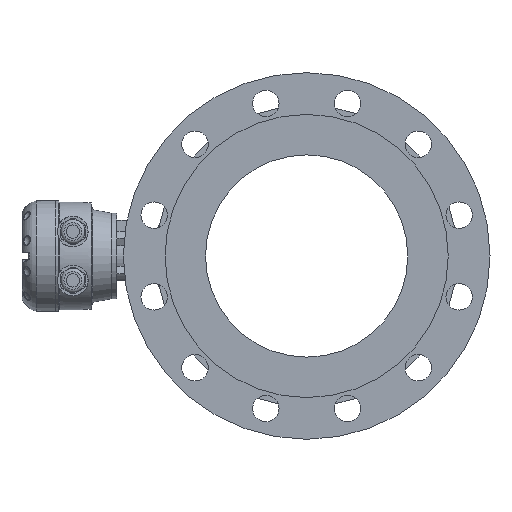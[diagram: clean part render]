
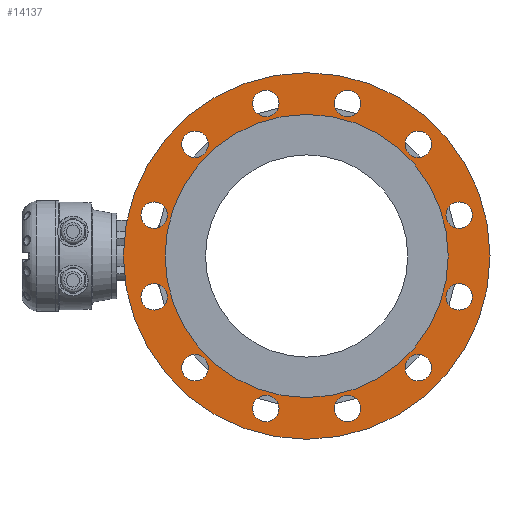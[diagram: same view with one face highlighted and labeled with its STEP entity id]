
A CAD part, left-side view. The second image highlights one B-rep face of the part: STEP entity #14137.
In plain terms, the highlighted planar face has unit normal (-1, 0, 0).
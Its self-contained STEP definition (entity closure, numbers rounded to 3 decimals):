
#54 = CIRCLE ( 'NONE', #2707, 13. ) ;
#434 = FACE_BOUND ( 'NONE', #4462, .T. ) ;
#435 = FACE_BOUND ( 'NONE', #4409, .T. ) ;
#439 = FACE_BOUND ( 'NONE', #4459, .T. ) ;
#440 = FACE_BOUND ( 'NONE', #4480, .T. ) ;
#441 = FACE_BOUND ( 'NONE', #4451, .T. ) ;
#442 = FACE_BOUND ( 'NONE', #4464, .T. ) ;
#443 = FACE_BOUND ( 'NONE', #4454, .T. ) ;
#444 = FACE_BOUND ( 'NONE', #4466, .T. ) ;
#445 = FACE_BOUND ( 'NONE', #4457, .T. ) ;
#446 = FACE_BOUND ( 'NONE', #4476, .T. ) ;
#447 = FACE_BOUND ( 'NONE', #4481, .T. ) ;
#448 = FACE_BOUND ( 'NONE', #4485, .T. ) ;
#449 = FACE_OUTER_BOUND ( 'NONE', #4490, .T. ) ;
#450 = FACE_BOUND ( 'NONE', #4493, .T. ) ;
#694 = CARTESIAN_POINT ( 'NONE',  ( -164.805, -220.134, -160.261 ) ) ;
#706 = DIRECTION ( 'NONE',  ( -1., 0., 0. ) ) ;
#708 = DIRECTION ( 'NONE',  ( 0., 0., 1. ) ) ;
#1103 = CARTESIAN_POINT ( 'NONE',  ( -164.805, -30.298, 29.574 ) ) ;
#1117 = DIRECTION ( 'NONE',  ( -1., 0., 0. ) ) ;
#1118 = DIRECTION ( 'NONE',  ( 0., 0., 1. ) ) ;
#1144 = CARTESIAN_POINT ( 'NONE',  ( -164.805, -70.415, 99.059 ) ) ;
#1150 = DIRECTION ( 'NONE',  ( -1., 0., 0. ) ) ;
#1151 = DIRECTION ( 'NONE',  ( 0., 0., 1. ) ) ;
#2079 = CARTESIAN_POINT ( 'NONE',  ( -164.805, -289.618, -107.144 ) ) ;
#2086 = VERTEX_POINT ( 'NONE', #2087 ) ;
#2087 = CARTESIAN_POINT ( 'NONE',  ( -164.805, -329.735, -37.66 ) ) ;
#2094 = VERTEX_POINT ( 'NONE', #2095 ) ;
#2095 = CARTESIAN_POINT ( 'NONE',  ( -164.805, -139.9, -147.261 ) ) ;
#2112 = VERTEX_POINT ( 'NONE', #2113 ) ;
#2113 = CARTESIAN_POINT ( 'NONE',  ( -164.805, -180.017, -190.543 ) ) ;
#2146 = VERTEX_POINT ( 'NONE', #2147 ) ;
#2147 = CARTESIAN_POINT ( 'NONE',  ( -164.805, -329.735, 42.574 ) ) ;
#2148 = VERTEX_POINT ( 'NONE', #2149 ) ;
#2149 = CARTESIAN_POINT ( 'NONE',  ( -164.805, -180.017, -149.543 ) ) ;
#2152 = VERTEX_POINT ( 'NONE', #2153 ) ;
#2153 = CARTESIAN_POINT ( 'NONE',  ( -164.805, -220.134, 152.176 ) ) ;
#2182 = VERTEX_POINT ( 'NONE', #2183 ) ;
#2183 = CARTESIAN_POINT ( 'NONE',  ( -164.805, -289.618, 112.059 ) ) ;
#2188 = VERTEX_POINT ( 'NONE', #2189 ) ;
#2189 = CARTESIAN_POINT ( 'NONE',  ( -164.805, -139.9, 152.176 ) ) ;
#2212 = VERTEX_POINT ( 'NONE', #2213 ) ;
#2213 = CARTESIAN_POINT ( 'NONE',  ( -164.805, -220.134, -147.261 ) ) ;
#2238 = VERTEX_POINT ( 'NONE', #2239 ) ;
#2239 = CARTESIAN_POINT ( 'NONE',  ( -164.805, -30.298, 42.574 ) ) ;
#2244 = VERTEX_POINT ( 'NONE', #2245 ) ;
#2245 = CARTESIAN_POINT ( 'NONE',  ( -164.805, -70.415, 112.059 ) ) ;
#2538 = AXIS2_PLACEMENT_3D ( 'NONE', #7970, #7976, #7977 ) ;
#2555 = AXIS2_PLACEMENT_3D ( 'NONE', #7985, #7990, #7991 ) ;
#2558 = AXIS2_PLACEMENT_3D ( 'NONE', #8087, #8088, #8089 ) ;
#2564 = AXIS2_PLACEMENT_3D ( 'NONE', #8119, #8130, #8131 ) ;
#2568 = AXIS2_PLACEMENT_3D ( 'NONE', #8230, #8238, #8239 ) ;
#2582 = AXIS2_PLACEMENT_3D ( 'NONE', #5016, #5022, #5023 ) ;
#2607 = AXIS2_PLACEMENT_3D ( 'NONE', #5965, #5971, #5973 ) ;
#2623 = AXIS2_PLACEMENT_3D ( 'NONE', #6101, #6110, #6112 ) ;
#2627 = AXIS2_PLACEMENT_3D ( 'NONE', #6153, #6189, #6190 ) ;
#2650 = AXIS2_PLACEMENT_3D ( 'NONE', #6702, #6704, #6705 ) ;
#2652 = AXIS2_PLACEMENT_3D ( 'NONE', #6671, #6675, #6676 ) ;
#2686 = AXIS2_PLACEMENT_3D ( 'NONE', #694, #706, #708 ) ;
#2702 = AXIS2_PLACEMENT_3D ( 'NONE', #1103, #1117, #1118 ) ;
#2707 = AXIS2_PLACEMENT_3D ( 'NONE', #1144, #1150, #1151 ) ;
#2844 = AXIS2_PLACEMENT_3D ( 'NONE', #10615, #10616, #10617 ) ;
#3360 = EDGE_CURVE ( 'NONE', #11414, #11414, #13220, .T. ) ;
#3365 = EDGE_CURVE ( 'NONE', #11420, #11420, #13227, .T. ) ;
#3379 = EDGE_CURVE ( 'NONE', #9876, #9876, #13250, .T. ) ;
#3394 = EDGE_CURVE ( 'NONE', #2086, #2086, #13274, .T. ) ;
#3410 = EDGE_CURVE ( 'NONE', #2094, #2094, #13298, .T. ) ;
#3456 = EDGE_CURVE ( 'NONE', #2112, #2112, #13361, .T. ) ;
#3708 = EDGE_CURVE ( 'NONE', #2146, #2146, #13557, .T. ) ;
#3732 = EDGE_CURVE ( 'NONE', #2148, #2148, #13578, .T. ) ;
#3743 = EDGE_CURVE ( 'NONE', #2152, #2152, #13586, .T. ) ;
#3961 = EDGE_CURVE ( 'NONE', #2182, #2182, #13723, .T. ) ;
#3981 = EDGE_CURVE ( 'NONE', #2188, #2188, #13735, .T. ) ;
#4409 = EDGE_LOOP ( 'NONE', ( #12882 ) ) ;
#4451 = EDGE_LOOP ( 'NONE', ( #12883 ) ) ;
#4454 = EDGE_LOOP ( 'NONE', ( #12884 ) ) ;
#4457 = EDGE_LOOP ( 'NONE', ( #12885 ) ) ;
#4459 = EDGE_LOOP ( 'NONE', ( #12886 ) ) ;
#4462 = EDGE_LOOP ( 'NONE', ( #12887 ) ) ;
#4464 = EDGE_LOOP ( 'NONE', ( #12888 ) ) ;
#4466 = EDGE_LOOP ( 'NONE', ( #12889 ) ) ;
#4476 = EDGE_LOOP ( 'NONE', ( #12890 ) ) ;
#4480 = EDGE_LOOP ( 'NONE', ( #12891 ) ) ;
#4481 = EDGE_LOOP ( 'NONE', ( #12892 ) ) ;
#4485 = EDGE_LOOP ( 'NONE', ( #12893 ) ) ;
#4490 = EDGE_LOOP ( 'NONE', ( #12894 ) ) ;
#4493 = EDGE_LOOP ( 'NONE', ( #12895 ) ) ;
#4975 = EDGE_CURVE ( 'NONE', #2212, #2212, #13825, .T. ) ;
#5016 = CARTESIAN_POINT ( 'NONE',  ( -164.805, -180.017, -10.543 ) ) ;
#5022 = DIRECTION ( 'NONE',  ( 1., 0., 0. ) ) ;
#5023 = DIRECTION ( 'NONE',  ( 0., 0., -1. ) ) ;
#5965 = CARTESIAN_POINT ( 'NONE',  ( -164.805, -329.735, 29.574 ) ) ;
#5971 = DIRECTION ( 'NONE',  ( -1., 0., 0. ) ) ;
#5973 = DIRECTION ( 'NONE',  ( 0., 0., 1. ) ) ;
#6101 = CARTESIAN_POINT ( 'NONE',  ( -164.805, -180.017, -10.543 ) ) ;
#6110 = DIRECTION ( 'NONE',  ( 1., 0., 0. ) ) ;
#6112 = DIRECTION ( 'NONE',  ( 0., 0., -1. ) ) ;
#6153 = CARTESIAN_POINT ( 'NONE',  ( -164.805, -220.134, 139.176 ) ) ;
#6189 = DIRECTION ( 'NONE',  ( -1., 0., 0. ) ) ;
#6190 = DIRECTION ( 'NONE',  ( 0., 0., 1. ) ) ;
#6671 = CARTESIAN_POINT ( 'NONE',  ( -164.805, -289.618, 99.059 ) ) ;
#6675 = DIRECTION ( 'NONE',  ( -1., 0., 0. ) ) ;
#6676 = DIRECTION ( 'NONE',  ( 0., 0., 1. ) ) ;
#6702 = CARTESIAN_POINT ( 'NONE',  ( -164.805, -139.9, 139.176 ) ) ;
#6704 = DIRECTION ( 'NONE',  ( -1., 0., 0. ) ) ;
#6705 = DIRECTION ( 'NONE',  ( 0., 0., 1. ) ) ;
#7970 = CARTESIAN_POINT ( 'NONE',  ( -164.805, -30.298, -50.66 ) ) ;
#7976 = DIRECTION ( 'NONE',  ( -1., 0., 0. ) ) ;
#7977 = DIRECTION ( 'NONE',  ( 0., 0., 1. ) ) ;
#7985 = CARTESIAN_POINT ( 'NONE',  ( -164.805, -70.415, -120.144 ) ) ;
#7990 = DIRECTION ( 'NONE',  ( -1., 0., 0. ) ) ;
#7991 = DIRECTION ( 'NONE',  ( 0., 0., 1. ) ) ;
#8087 = CARTESIAN_POINT ( 'NONE',  ( -164.805, -289.618, -120.144 ) ) ;
#8088 = DIRECTION ( 'NONE',  ( -1., 0., 0. ) ) ;
#8089 = DIRECTION ( 'NONE',  ( 0., 0., 1. ) ) ;
#8119 = CARTESIAN_POINT ( 'NONE',  ( -164.805, -329.735, -50.66 ) ) ;
#8130 = DIRECTION ( 'NONE',  ( -1., 0., 0. ) ) ;
#8131 = DIRECTION ( 'NONE',  ( 0., 0., 1. ) ) ;
#8230 = CARTESIAN_POINT ( 'NONE',  ( -164.805, -139.9, -160.261 ) ) ;
#8238 = DIRECTION ( 'NONE',  ( -1., 0., 0. ) ) ;
#8239 = DIRECTION ( 'NONE',  ( 0., 0., 1. ) ) ;
#9876 = VERTEX_POINT ( 'NONE', #2079 ) ;
#10611 = PLANE ( 'NONE',  #2844 ) ;
#10615 = CARTESIAN_POINT ( 'NONE',  ( -164.805, -180.017, -10.543 ) ) ;
#10616 = DIRECTION ( 'NONE',  ( -1., 0., 0. ) ) ;
#10617 = DIRECTION ( 'NONE',  ( 0., 0., -1. ) ) ;
#11414 = VERTEX_POINT ( 'NONE', #11415 ) ;
#11415 = CARTESIAN_POINT ( 'NONE',  ( -164.805, -30.298, -37.66 ) ) ;
#11420 = VERTEX_POINT ( 'NONE', #11421 ) ;
#11421 = CARTESIAN_POINT ( 'NONE',  ( -164.805, -70.415, -107.144 ) ) ;
#12829 = EDGE_CURVE ( 'NONE', #2238, #2238, #13944, .T. ) ;
#12843 = EDGE_CURVE ( 'NONE', #2244, #2244, #54, .T. ) ;
#12882 = ORIENTED_EDGE ( 'NONE', *, *, #12829, .F. ) ;
#12883 = ORIENTED_EDGE ( 'NONE', *, *, #12843, .F. ) ;
#12884 = ORIENTED_EDGE ( 'NONE', *, *, #3981, .F. ) ;
#12885 = ORIENTED_EDGE ( 'NONE', *, *, #3743, .F. ) ;
#12886 = ORIENTED_EDGE ( 'NONE', *, *, #3961, .F. ) ;
#12887 = ORIENTED_EDGE ( 'NONE', *, *, #3708, .F. ) ;
#12888 = ORIENTED_EDGE ( 'NONE', *, *, #3394, .F. ) ;
#12889 = ORIENTED_EDGE ( 'NONE', *, *, #3379, .F. ) ;
#12890 = ORIENTED_EDGE ( 'NONE', *, *, #4975, .F. ) ;
#12891 = ORIENTED_EDGE ( 'NONE', *, *, #3410, .F. ) ;
#12892 = ORIENTED_EDGE ( 'NONE', *, *, #3365, .F. ) ;
#12893 = ORIENTED_EDGE ( 'NONE', *, *, #3360, .F. ) ;
#12894 = ORIENTED_EDGE ( 'NONE', *, *, #3456, .F. ) ;
#12895 = ORIENTED_EDGE ( 'NONE', *, *, #3732, .T. ) ;
#13220 = CIRCLE ( 'NONE', #2538, 13. ) ;
#13227 = CIRCLE ( 'NONE', #2555, 13. ) ;
#13250 = CIRCLE ( 'NONE', #2558, 13. ) ;
#13274 = CIRCLE ( 'NONE', #2564, 13. ) ;
#13298 = CIRCLE ( 'NONE', #2568, 13. ) ;
#13361 = CIRCLE ( 'NONE', #2582, 180. ) ;
#13557 = CIRCLE ( 'NONE', #2607, 13. ) ;
#13578 = CIRCLE ( 'NONE', #2623, 139. ) ;
#13586 = CIRCLE ( 'NONE', #2627, 13. ) ;
#13723 = CIRCLE ( 'NONE', #2652, 13. ) ;
#13735 = CIRCLE ( 'NONE', #2650, 13. ) ;
#13825 = CIRCLE ( 'NONE', #2686, 13. ) ;
#13944 = CIRCLE ( 'NONE', #2702, 13. ) ;
#14137 = ADVANCED_FACE ( 'NONE', ( #435, #441, #443, #445, #439, #434, #442, #444, #446, #440, #447, #448, #449, #450 ), #10611, .T. ) ;
